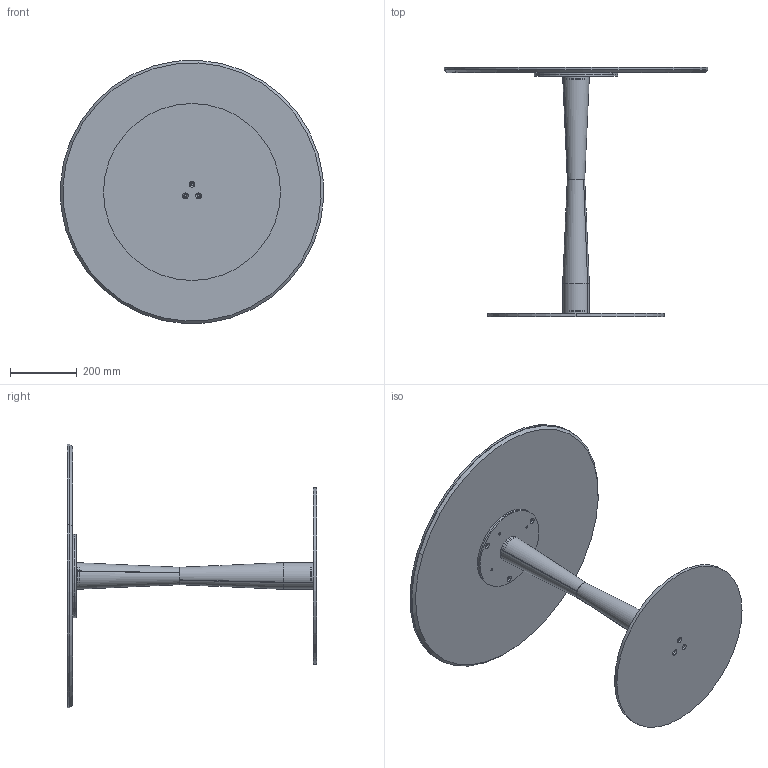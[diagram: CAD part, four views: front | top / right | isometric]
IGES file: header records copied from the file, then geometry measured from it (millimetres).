
Start section: SolidWorks IGES file using analytic representation for surfaces
Global section: file name: Y:\eforma\TECNICO\SOLIDWORKS\E-FORMA\5-TAVOLINI BISTRO\FILÚ\02 parts\FI12C.IGS; native system: SolidWorks 2022; preprocessor: SolidWorks 2022; author: eforma.tech; date: 240808.095841; units: millimetre
Bounding box: 788.98 x 747 x 788.98 mm (x, y, z)
Volume: 10837760.6 mm3; surface area: 2967619.7 mm2
Topology: 9 solids, 9 shells, 120 faces, 274 edges, 172 vertices
Faces by surface type: revolution 102, plane 18
